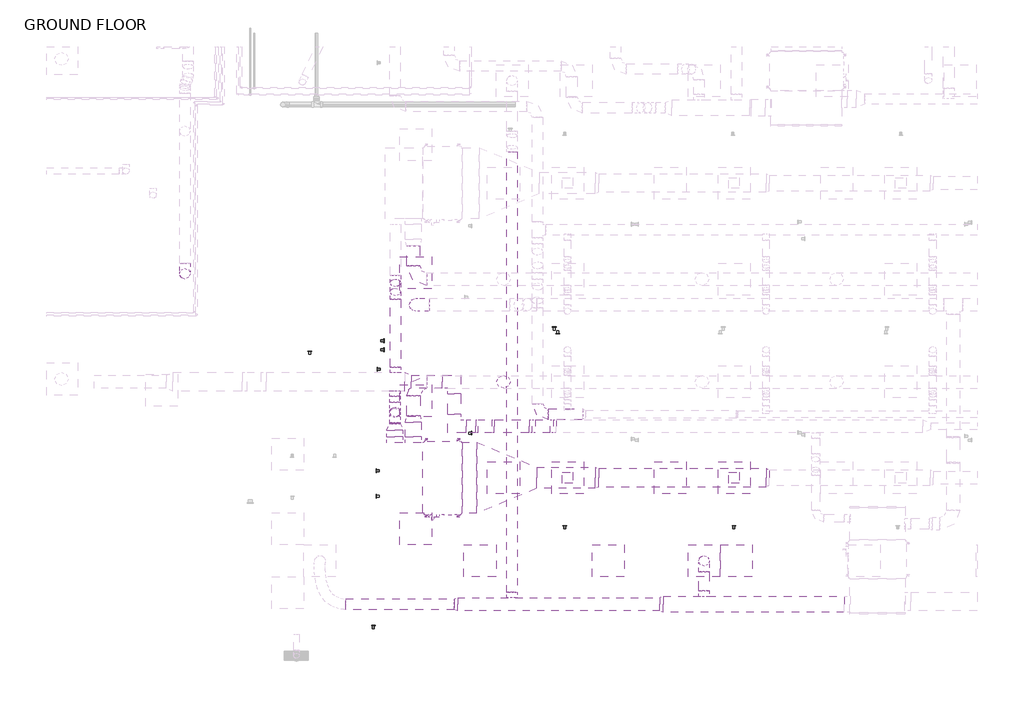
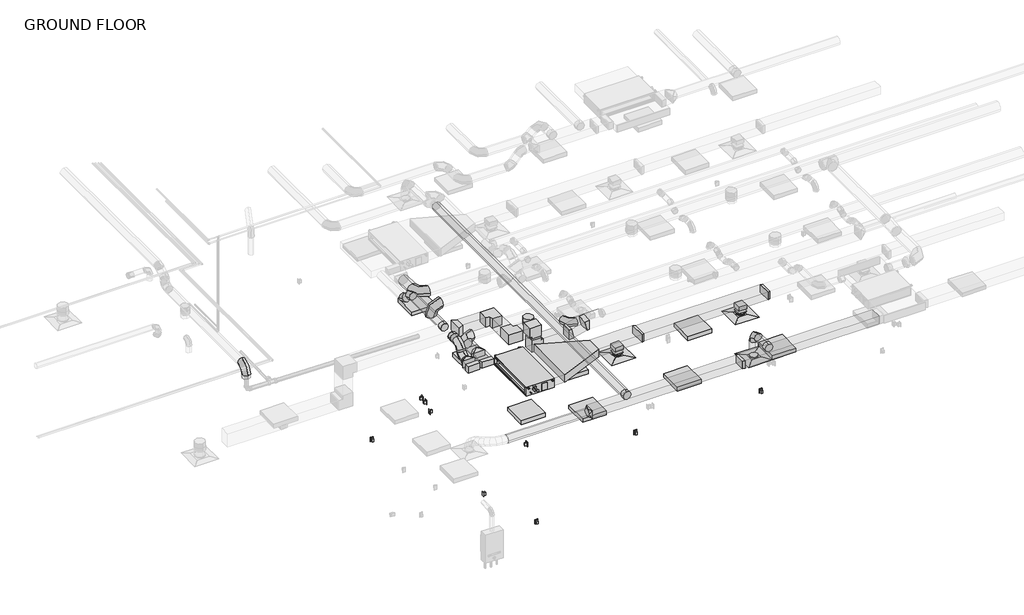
# One storey, part 2 of 21: 35 duct fittings, 29 duct segments, 8 light fixtures, 7 switching devices, 6 proxies, 3 air terminals.
"""IFC4 building model written with IfcOpenShell, lengths in millimetres."""

from ifc_helpers import new_model, si_unit, point, frame, frame_2d, origin, place, context, project, spatial, polyline, circle_curve, trimmed, segment, composite_curve, outline, extrude, transform, mapped, element, save
from components import air_terminal_e9020785, mechanical_equipment_d478180c, duplex_receptacle_countertop_10251bba, rectangular_elbow_mitered_transition_standard_c0ad29cc, rectangular_elbow_mitered_transition_standard_35919474, rectangular_elbow_radius_1_5_w_4707421c, rectangular_takeoff_standard_d07ea574, rectangular_takeoff_standard_fde45e03, rectangular_takeoff_standard_a8f316fd, rectangular_transition_angle_45_degree_1d311e81, rectangular_transition_angle_45_degree_791ae252, rectangular_transition_angle_45_degree_a1440fe9, rectangular_transition_angle_45_degree_05e1d5e5, rectangular_transition_angle_45_degree_612073dc, rectangular_to_round_transition_angle_45_degree_e9430680, rectangular_to_round_transition_angle_45_degree_5a025447, rectangular_to_round_transition_angle_45_degree_789dc1ad, rectangular_to_round_transition_angle_45_degree_93942259, round_elbow_1_d_a253342a, round_elbow_1_d_6fec3262, round_elbow_1_d_ab3aa7ba, round_elbow_1_d_e523f96f, round_takeoff_standard_161717b3, round_takeoff_standard_d3b0d0f9, round_takeoff_standard_1127d77f, troffer_corner_insert_2x2_3lamp_e67c7f8f

model = new_model("IFC4")

# Units and contexts
model_context = context("Model", 3, world=origin())
ifc_project = project(units=[si_unit("LENGTHUNIT", "METRE", prefix="MILLI")], contexts=[model_context])

# Site, building, storey
site = spatial("IfcSite", under=ifc_project)
building = spatial("IfcBuilding", under=site)
storey = spatial("IfcBuildingStorey", under=building, Name="GROUND FLOOR", Elevation=30480.0)

# Air terminals
placement = place(None, origin())
air_terminal_shape = air_terminal_e9020785(model_context)
element("IfcAirTerminal", 1, ObjectType="Supply Diffuser - Rectangular Face Round Neck - Hosted : 24\"x24\" Face 8\" Neck - Hosted", at=placement, inside=storey, context=model_context, shape_type="MappedRepresentation", body=[
    mapped(air_terminal_shape, transform((-3970.9704607, -4228.1054995, 33223.2), x_axis=(0.0, -1.0, 0.0), y_axis=(-1.0, 0.0, 0.0), z_axis=(0.0, 0.0, -1.0))),
])
element("IfcAirTerminal", 2, ObjectType="Supply Diffuser - Rectangular Face Round Neck - Hosted : 24\"x24\" Face 8\" Neck - Hosted", at=placement, inside=storey, context=model_context, shape_type="MappedRepresentation", body=[
    mapped(air_terminal_shape, transform((-799.1454607, -4228.1054995, 33223.2), x_axis=(0.0, -1.0, 0.0), y_axis=(-1.0, 0.0, 0.0), z_axis=(0.0, 0.0, -1.0))),
])
element("IfcAirTerminal", 3, ObjectType="Supply Diffuser - Rectangular Face Round Neck - Hosted : 24\"x24\" Face 8\" Neck - Hosted", at=placement, inside=storey, context=model_context, shape_type="MappedRepresentation", body=[
    mapped(air_terminal_shape, transform((-1370.6454607, -5809.2554995, 33223.2), x_axis=(0.0, -1.0, 0.0), y_axis=(-1.0, 0.0, 0.0), z_axis=(0.0, 0.0, -1.0))),
])

# Proxies
mechanical_equipment_shape = mechanical_equipment_d478180c(model_context)
element("IfcBuildingElementProxy", 4, Name="PEFY-P-NMAU-E_Medium_Static_Ducted : PEFY-P36NMAU-E", ObjectType="PEFY-P-NMAU-E_Medium_Static_Ducted : PEFY-P36NMAU-E", at=placement, inside=storey, context=model_context, shape_type="MappedRepresentation", body=[
    mapped(mechanical_equipment_shape, transform((-6407.5018914, -4238.1177424, 33458.15), x_axis=(0.0, -1.0, 0.0), y_axis=(1.0, 0.0, 0.0), z_axis=(0.0, 0.0, 1.0))),
])
duplex_receptacle_countertop_shape = duplex_receptacle_countertop_10251bba(model_context)
element("IfcBuildingElementProxy", 5, Name="Duplex Receptacle : Countertop", ObjectType="Duplex Receptacle : Countertop", at=placement, inside=storey, context=model_context, shape_type="MappedRepresentation", body=[
    mapped(duplex_receptacle_countertop_shape, transform((-7612.6954607, -4094.8803296, 31699.2), x_axis=(0.0, -1.0, 0.0), y_axis=(0.0, 0.0, 1.0), z_axis=(-1.0, 0.0, 0.0))),
])
element("IfcBuildingElementProxy", 6, Name="Duplex Receptacle : Standard", ObjectType="Duplex Receptacle : Standard", at=placement, inside=storey, context=model_context, shape_type="MappedRepresentation", body=[
    mapped(duplex_receptacle_countertop_shape, transform((-5799.7704607, -3377.6052402, 30937.2), x_axis=(0.0, 1.0, 0.0), y_axis=(0.0, 0.0, 1.0), z_axis=(1.0, 0.0, 0.0))),
])
element("IfcBuildingElementProxy", 7, Name="Duplex Receptacle : Standard", ObjectType="Duplex Receptacle : Standard", at=placement, inside=storey, context=model_context, shape_type="MappedRepresentation", body=[
    mapped(duplex_receptacle_countertop_shape, transform((-4158.8399036, -1484.9054995, 30937.2), x_axis=(1.0, 0.0, 0.0), y_axis=(0.0, 0.0, 1.0), z_axis=(0.0, -1.0, 0.0))),
])
element("IfcBuildingElementProxy", 8, Name="Duplex Receptacle : Standard", ObjectType="Duplex Receptacle : Standard", at=placement, inside=storey, context=model_context, shape_type="MappedRepresentation", body=[
    mapped(duplex_receptacle_countertop_shape, transform((-4224.9569269, -1361.0804995, 30937.2), x_axis=(-1.0, 0.0, 0.0), y_axis=(0.0, 0.0, 1.0), z_axis=(0.0, 1.0, 0.0))),
])
element("IfcBuildingElementProxy", 9, Name="Duplex Receptacle : Standard", ObjectType="Duplex Receptacle : Standard", at=placement, inside=storey, context=model_context, shape_type="MappedRepresentation", body=[
    mapped(duplex_receptacle_countertop_shape, transform((-7612.6954607, -4580.3290088, 30937.2), x_axis=(0.0, -1.0, 0.0), y_axis=(0.0, 0.0, 1.0), z_axis=(-1.0, 0.0, 0.0))),
])

# Duct fittings
rectangular_elbow_mitered_transition_standard_shape = rectangular_elbow_mitered_transition_standard_c0ad29cc(model_context)
element("IfcDuctFitting", 10, ObjectType="Rectangular Elbow - Mitered - Transition : Standard", at=placement, inside=storey, context=model_context, shape_type="MappedRepresentation", body=[
    mapped(rectangular_elbow_mitered_transition_standard_shape, transform((-6128.144811, -2399.3054995, 33909.0), x_axis=(0.0, 1.0, 0.0), y_axis=(-1.0, 0.0, 0.0), z_axis=(0.0, 0.0, 1.0))),
])
element("IfcDuctFitting", 11, ObjectType="Rectangular Elbow - Mitered - Transition : Standard", at=placement, inside=storey, context=model_context, shape_type="MappedRepresentation", body=[
    mapped(rectangular_elbow_mitered_transition_standard_shape, transform((-6128.144811, -3245.6216457, 33909.0), x_axis=(0.0, -1.0, 0.0), y_axis=(1.0, 0.0, 0.0), z_axis=(0.0, 0.0, 1.0))),
])
rectangular_elbow_mitered_transition_standard_2_shape = rectangular_elbow_mitered_transition_standard_35919474(model_context)
element("IfcDuctFitting", 12, ObjectType="Rectangular Elbow - Mitered - Transition : Standard", at=placement, inside=storey, context=model_context, shape_type="MappedRepresentation", body=[
    mapped(rectangular_elbow_mitered_transition_standard_2_shape, transform((-5543.944811, -3245.6216457, 33909.0), x_axis=(1.0, 0.0, 0.0), y_axis=(0.0, 0.0, -1.0), z_axis=(0.0, 1.0, 0.0))),
])
element("IfcDuctFitting", 13, ObjectType="Rectangular Elbow - Mitered - Transition : Standard", at=placement, inside=storey, context=model_context, shape_type="MappedRepresentation", body=[
    mapped(rectangular_elbow_mitered_transition_standard_2_shape, transform((-5543.944811, -3245.6216457, 33502.6), x_axis=(-1.0, 0.0, 0.0), y_axis=(0.0, 0.0, 1.0), z_axis=(0.0, 1.0, 0.0))),
])
rectangular_elbow_radius_1_5_w_shape = rectangular_elbow_radius_1_5_w_4707421c(model_context)
element("IfcDuctFitting", 14, ObjectType="Rectangular Elbow - Radius : 1.5 W", at=placement, inside=storey, context=model_context, shape_type="MappedRepresentation", body=[
    mapped(rectangular_elbow_radius_1_5_w_shape, transform((-4654.944811, -3245.6216457, 33502.6), x_axis=(1.0, 0.0, 0.0), y_axis=(0.0, 0.0, 1.0), z_axis=(0.0, -1.0, 0.0))),
])
element("IfcDuctFitting", 15, ObjectType="Rectangular Elbow - Radius : 1.5 W", at=placement, inside=storey, context=model_context, shape_type="MappedRepresentation", body=[
    mapped(rectangular_elbow_radius_1_5_w_shape, transform((-4228.8077618, -3245.6216457, 33602.867541), x_axis=(-1.0, 0.0, 0.0), y_axis=(0.0, 0.0, -1.0), z_axis=(0.0, -1.0, 0.0))),
])
rectangular_takeoff_standard_shape = rectangular_takeoff_standard_d07ea574(model_context)
element("IfcDuctFitting", 16, ObjectType="Rectangular Takeoff : Standard", at=placement, inside=storey, context=model_context, shape_type="MappedRepresentation", body=[
    mapped(rectangular_takeoff_standard_shape, transform((-799.1454607, -4228.1054995, 33502.6), x_axis=(0.0, 0.0, -1.0), y_axis=(1.0, 0.0, 0.0), z_axis=(0.0, -1.0, 0.0))),
])
element("IfcDuctFitting", 17, ObjectType="Rectangular Takeoff : Standard", at=placement, inside=storey, context=model_context, shape_type="MappedRepresentation", body=[
    mapped(rectangular_takeoff_standard_shape, transform((-3970.9704607, -4228.1054995, 33502.6), x_axis=(0.0, 0.0, -1.0), y_axis=(1.0, 0.0, 0.0), z_axis=(0.0, -1.0, 0.0))),
])
rectangular_takeoff_standard_2_shape = rectangular_takeoff_standard_fde45e03(model_context)
element("IfcDuctFitting", 18, ObjectType="Rectangular Takeoff : Standard", at=placement, inside=storey, context=model_context, shape_type="MappedRepresentation", body=[
    mapped(rectangular_takeoff_standard_2_shape, transform((-6905.278652, -3550.2429995, 33617.69375), x_axis=(0.0, 1.0, 0.0), y_axis=(-1.0, 0.0, 0.0), z_axis=(0.0, 0.0, 1.0))),
])
rectangular_takeoff_standard_3_shape = rectangular_takeoff_standard_a8f316fd(model_context)
element("IfcDuctFitting", 19, ObjectType="Rectangular Takeoff : Standard", at=placement, inside=storey, context=model_context, shape_type="MappedRepresentation", body=[
    mapped(rectangular_takeoff_standard_3_shape, transform((-7257.09369, -3550.2429995, 33617.69375), x_axis=(0.0, 1.0, 0.0), y_axis=(1.0, 0.0, 0.0), z_axis=(0.0, 0.0, -1.0))),
])
rectangular_transition_angle_45_degree_shape = rectangular_transition_angle_45_degree_1d311e81(model_context)
element("IfcDuctFitting", 20, ObjectType="Rectangular Transition - Angle : 45 Degree", at=placement, inside=storey, context=model_context, shape_type="MappedRepresentation", body=[
    mapped(rectangular_transition_angle_45_degree_shape, transform((-2152.8792966, -6635.2850038, 33877.25), x_axis=(-1.0, 0.0, 0.0), y_axis=(0.0, -1.0, 0.0), z_axis=(0.0, 0.0, 1.0))),
])
rectangular_transition_angle_45_degree_2_shape = rectangular_transition_angle_45_degree_791ae252(model_context)
element("IfcDuctFitting", 21, ObjectType="Rectangular Transition - Angle : 45 Degree", at=placement, inside=storey, context=model_context, shape_type="MappedRepresentation", body=[
    mapped(rectangular_transition_angle_45_degree_2_shape, transform((-3441.5200089, -4228.1054995, 33604.2), x_axis=(1.0, 0.0, 0.0), y_axis=(0.0, 1.0, 0.0), z_axis=(0.0, 0.0, 1.0))),
])
rectangular_transition_angle_45_degree_3_shape = rectangular_transition_angle_45_degree_a1440fe9(model_context)
element("IfcDuctFitting", 22, ObjectType="Rectangular Transition - Angle : 45 Degree", at=placement, inside=storey, context=model_context, shape_type="MappedRepresentation", body=[
    mapped(rectangular_transition_angle_45_degree_3_shape, transform((-189.5454607, -4228.1054995, 33604.2), x_axis=(1.0, 0.0, 0.0), y_axis=(0.0, 1.0, 0.0), z_axis=(0.0, 0.0, 1.0))),
])
rectangular_transition_angle_45_degree_4_shape = rectangular_transition_angle_45_degree_05e1d5e5(model_context)
element("IfcDuctFitting", 23, ObjectType="Rectangular Transition - Angle : 45 Degree", at=placement, inside=storey, context=model_context, shape_type="MappedRepresentation", body=[
    mapped(rectangular_transition_angle_45_degree_4_shape, transform((-4556.1833638, -4228.1054995, 33604.2), x_axis=(-1.0, 0.0, 0.0), y_axis=(0.0, -1.0, 0.0), z_axis=(0.0, 0.0, 1.0))),
])
rectangular_transition_angle_45_degree_5_shape = rectangular_transition_angle_45_degree_612073dc(model_context)
element("IfcDuctFitting", 24, ObjectType="Rectangular Transition - Angle : 45 Degree", at=placement, inside=storey, context=model_context, shape_type="MappedRepresentation", body=[
    mapped(rectangular_transition_angle_45_degree_5_shape, transform((-7067.944811, -2399.3054995, 33909.0), x_axis=(1.0, 0.0, 0.0), y_axis=(0.0, 1.0, 0.0), z_axis=(0.0, 0.0, 1.0))),
])
rectangular_to_round_transition_angle_45_degree_shape = rectangular_to_round_transition_angle_45_degree_e9430680(model_context)
element("IfcDuctFitting", 25, ObjectType="Rectangular to Round Transition - Angle : 45 Degree", at=placement, inside=storey, context=model_context, shape_type="MappedRepresentation", body=[
    mapped(rectangular_to_round_transition_angle_45_degree_shape, transform((-6064.4792966, -6635.2850038, 33877.25), x_axis=(-1.0, 0.0, 0.0), y_axis=(0.0, -1.0, 0.0), z_axis=(0.0, 0.0, 1.0))),
])
rectangular_to_round_transition_angle_45_degree_2_shape = rectangular_to_round_transition_angle_45_degree_5a025447(model_context)
element("IfcDuctFitting", 26, ObjectType="Rectangular to Round Transition - Angle : 45 Degree", at=placement, inside=storey, context=model_context, shape_type="MappedRepresentation", body=[
    mapped(rectangular_to_round_transition_angle_45_degree_2_shape, transform((-799.1454607, -4228.1054995, 33327.975), x_axis=(0.0, 0.0, -1.0), y_axis=(1.0, 0.0, 0.0), z_axis=(0.0, -1.0, 0.0))),
])
element("IfcDuctFitting", 27, ObjectType="Rectangular to Round Transition - Angle : 45 Degree", at=placement, inside=storey, context=model_context, shape_type="MappedRepresentation", body=[
    mapped(rectangular_to_round_transition_angle_45_degree_2_shape, transform((-3970.9704607, -4228.1054995, 33327.975), x_axis=(0.0, 0.0, -1.0), y_axis=(1.0, 0.0, 0.0), z_axis=(0.0, -1.0, 0.0))),
])
rectangular_to_round_transition_angle_45_degree_3_shape = rectangular_to_round_transition_angle_45_degree_789dc1ad(model_context)
element("IfcDuctFitting", 28, ObjectType="Rectangular to Round Transition - Angle : 45 Degree", at=placement, inside=storey, context=model_context, shape_type="MappedRepresentation", body=[
    mapped(rectangular_to_round_transition_angle_45_degree_3_shape, transform((-6905.278652, -3169.2429995, 33617.69375), x_axis=(0.0, 1.0, 0.0), y_axis=(-1.0, 0.0, 0.0), z_axis=(0.0, 0.0, 1.0))),
])
rectangular_to_round_transition_angle_45_degree_4_shape = rectangular_to_round_transition_angle_45_degree_93942259(model_context)
element("IfcDuctFitting", 29, ObjectType="Rectangular to Round Transition - Angle : 45 Degree", at=placement, inside=storey, context=model_context, shape_type="MappedRepresentation", body=[
    mapped(rectangular_to_round_transition_angle_45_degree_4_shape, transform((-7257.09369, -3321.6429995, 33617.69375), x_axis=(0.0, 1.0, 0.0), y_axis=(-1.0, 0.0, 0.0), z_axis=(0.0, 0.0, 1.0))),
])
round_elbow_1_d_shape = round_elbow_1_d_a253342a(model_context)
element("IfcDuctFitting", 30, ObjectType="Round Elbow : 1 D", at=placement, inside=storey, context=model_context, shape_type="MappedRepresentation", body=[
    mapped(round_elbow_1_d_shape, transform((-11256.8513201, -341.9054995, 33121.6), x_axis=(0.0, -1.0, 0.0), y_axis=(0.0, 0.0, -1.0), z_axis=(1.0, 0.0, 0.0))),
])
element("IfcDuctFitting", 31, ObjectType="Round Elbow : 1 D", at=placement, inside=storey, context=model_context, shape_type="MappedRepresentation", body=[
    mapped(round_elbow_1_d_shape, transform((-4541.976464, -3019.0145579, 33528.0), x_axis=(0.0, -1.0, 0.0), y_axis=(1.0, 0.0, 0.0), z_axis=(0.0, 0.0, 1.0))),
])
element("IfcDuctFitting", 32, ObjectType="Round Elbow : 1 D", at=placement, inside=storey, context=model_context, shape_type="MappedRepresentation", body=[
    mapped(round_elbow_1_d_shape, transform((-1370.6454607, -5809.2554995, 33877.25), x_axis=(0.0, 0.0, 1.0), y_axis=(0.0, -1.0, 0.0), z_axis=(1.0, 0.0, 0.0))),
])
round_elbow_1_d_2_shape = round_elbow_1_d_6fec3262(model_context)
element("IfcDuctFitting", 33, ObjectType="Round Elbow : 1 D", at=placement, inside=storey, context=model_context, shape_type="MappedRepresentation", body=[
    mapped(round_elbow_1_d_2_shape, transform((-6857.0454607, -932.4554995, 33578.8), x_axis=(0.0, 0.0, 1.0), y_axis=(1.0, 0.0, 0.0), z_axis=(0.0, 1.0, 0.0))),
])
element("IfcDuctFitting", 34, ObjectType="Round Elbow : 1 D", at=placement, inside=storey, context=model_context, shape_type="MappedRepresentation", body=[
    mapped(round_elbow_1_d_2_shape, transform((-6905.278652, -2407.6759121, 33617.69375), x_axis=(-1.0, 0.0, 0.0), y_axis=(0.0, -1.0, 0.0), z_axis=(0.0, 0.0, 1.0))),
])
element("IfcDuctFitting", 35, ObjectType="Round Elbow : 1 D", at=placement, inside=storey, context=model_context, shape_type="MappedRepresentation", body=[
    mapped(round_elbow_1_d_2_shape, transform((-6907.4143044, -446.6804995, 33617.69375), x_axis=(0.0, -1.0, 0.0), y_axis=(1.0, 0.0, 0.0), z_axis=(0.0, 0.0, 1.0))),
])
round_elbow_1_d_3_shape = round_elbow_1_d_ab3aa7ba(model_context)
element("IfcDuctFitting", 36, ObjectType="Round Elbow : 1 D", at=placement, inside=storey, context=model_context, shape_type="MappedRepresentation", body=[
    mapped(round_elbow_1_d_3_shape, transform((-7247.6134283, -456.5972917, 33617.69375), x_axis=(0.0, -1.0, 0.0), y_axis=(0.0, 0.0, 1.0), z_axis=(-1.0, 0.0, 0.0))),
])
element("IfcDuctFitting", 37, ObjectType="Round Elbow : 1 D", at=placement, inside=storey, context=model_context, shape_type="MappedRepresentation", body=[
    mapped(round_elbow_1_d_3_shape, transform((-7247.6134283, -747.9035417, 33909.0), x_axis=(0.0, -0.7071067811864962, 0.7071067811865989), y_axis=(0.0, -0.7071067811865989, -0.7071067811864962), z_axis=(1.0, 0.0, 0.0))),
])
round_elbow_1_d_4_shape = round_elbow_1_d_e523f96f(model_context)
element("IfcDuctFitting", 38, ObjectType="Round Elbow : 1 D", at=placement, inside=storey, context=model_context, shape_type="MappedRepresentation", body=[
    mapped(round_elbow_1_d_4_shape, transform((-7257.09369, -3046.6009505, 33617.69375), x_axis=(0.0, 1.0, 0.0), y_axis=(0.0, 0.0, 1.0), z_axis=(1.0, 0.0, 0.0))),
])
element("IfcDuctFitting", 39, ObjectType="Round Elbow : 1 D", at=placement, inside=storey, context=model_context, shape_type="MappedRepresentation", body=[
    mapped(round_elbow_1_d_4_shape, transform((-7257.09369, -2922.9487836, 33909.0), x_axis=(0.0, 0.3907311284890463, 0.920504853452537), y_axis=(0.0, 0.920504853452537, -0.3907311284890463), z_axis=(-1.0, 0.0, 0.0))),
])
round_takeoff_standard_shape = round_takeoff_standard_161717b3(model_context)
element("IfcDuctFitting", 40, ObjectType="Round Takeoff : Standard", at=placement, inside=storey, context=model_context, shape_type="MappedRepresentation", body=[
    mapped(round_takeoff_standard_shape, transform((-5190.1704607, -2399.3054995, 33490.69375), x_axis=(0.0, 0.0, -1.0), y_axis=(-1.0, 0.0, 0.0), z_axis=(0.0, 1.0, 0.0))),
])
round_takeoff_standard_2_shape = round_takeoff_standard_d3b0d0f9(model_context)
element("IfcDuctFitting", 41, ObjectType="Round Takeoff : Standard", at=placement, inside=storey, context=model_context, shape_type="MappedRepresentation", body=[
    mapped(round_takeoff_standard_2_shape, transform((-7247.6134283, -2221.5054995, 33909.0), x_axis=(0.0, 1.0, 0.0), y_axis=(1.0, 0.0, 0.0), z_axis=(0.0, 0.0, -1.0))),
])
element("IfcDuctFitting", 42, ObjectType="Round Takeoff : Standard", at=placement, inside=storey, context=model_context, shape_type="MappedRepresentation", body=[
    mapped(round_takeoff_standard_2_shape, transform((-1370.6454607, -6482.8850038, 33877.25), x_axis=(0.0, 1.0, 0.0), y_axis=(1.0, 0.0, 0.0), z_axis=(0.0, 0.0, -1.0))),
])
element("IfcDuctFitting", 43, ObjectType="Round Takeoff : Standard", at=placement, inside=storey, context=model_context, shape_type="MappedRepresentation", body=[
    mapped(round_takeoff_standard_2_shape, transform((-5028.2454607, -6508.2850038, 33877.25), x_axis=(0.0, 1.0, 0.0), y_axis=(1.0, 0.0, 0.0), z_axis=(0.0, 0.0, -1.0))),
])
round_takeoff_standard_3_shape = round_takeoff_standard_1127d77f(model_context)
element("IfcDuctFitting", 44, ObjectType="Round Takeoff : Standard", at=placement, inside=storey, context=model_context, shape_type="MappedRepresentation", body=[
    mapped(round_takeoff_standard_3_shape, transform((-7257.09369, -2577.1054995, 33909.0), x_axis=(0.0, -1.0, 0.0), y_axis=(-1.0, 0.0, 0.0), z_axis=(0.0, 0.0, -1.0))),
])

# Duct segments
element("IfcDuctSegment", 45, ObjectType="Mitered Elbows / Taps", at=placement, inside=storey, context=model_context, shape_type="SweptSolid", body=[
    extrude(outline(polyline([(1301.5207034, -6482.8850038), (1301.5207034, -6787.6850038), (-2152.8792966, -6787.6850038), (-2152.8792966, -6482.8850038), (1301.5207034, -6482.8850038)])), frame((0.0, 0.0, 33775.65), z_axis=(0.0, 0.0, 1.0), x_axis=(1.0, 0.0, 0.0)), (0.0, 0.0, 1.0), 203.2),
])
element("IfcDuctSegment", 46, ObjectType="Mitered Elbows / Taps", at=placement, inside=storey, context=model_context, shape_type="SweptSolid", body=[
    extrude(outline(polyline([(-2214.200321, -6508.2850038), (-2214.200321, -6762.2850038), (-6064.4792966, -6762.2850038), (-6064.4792966, -6508.2850038), (-2214.200321, -6508.2850038)])), frame((0.0, 0.0, 33775.65), z_axis=(0.0, 0.0, 1.0), x_axis=(1.0, 0.0, 0.0)), (0.0, 0.0, 1.0), 203.2),
])
element("IfcDuctSegment", 47, ObjectType="Mitered Elbows / Taps", at=placement, inside=storey, context=model_context, shape_type="SweptSolid", body=[
    extrude(outline(polyline([(-3380.1989844, -4405.9054995), (-3380.1989844, -4050.3054995), (-189.5454607, -4050.3054995), (-189.5454607, -4405.9054995), (-3380.1989844, -4405.9054995)])), frame((0.0, 0.0, 33502.6), z_axis=(0.0, 0.0, 1.0), x_axis=(1.0, 0.0, 0.0)), (0.0, 0.0, 1.0), 203.2),
])
element("IfcDuctSegment", 48, ObjectType="Mitered Elbows / Taps", at=placement, inside=storey, context=model_context, shape_type="SweptSolid", body=[
    extrude(outline(polyline([(-5978.8768914, -4905.9679995), (-5978.8768914, -3550.2429995), (-5702.1200089, -3550.2429995), (-5702.1200089, -4905.9679995), (-5978.8768914, -4905.9679995)])), frame((0.0, 0.0, 33501.0125), z_axis=(0.0, 0.0, 1.0), x_axis=(1.0, 0.0, 0.0)), (0.0, 0.0, 1.0), 206.375),
])
element("IfcDuctSegment", 49, ObjectType="Mitered Elbows / Taps", at=placement, inside=storey, context=model_context, shape_type="SweptSolid", body=[
    extrude(outline(polyline([(-3441.5200089, -4024.9054995), (-3441.5200089, -4431.3054995), (-4556.1833638, -4431.3054995), (-4556.1833638, -4024.9054995), (-3441.5200089, -4024.9054995)])), frame((0.0, 0.0, 33502.6), z_axis=(0.0, 0.0, 1.0), x_axis=(1.0, 0.0, 0.0)), (0.0, 0.0, 1.0), 203.2),
])
element("IfcDuctSegment", 50, ObjectType="Mitered Elbows / Taps", at=placement, inside=storey, context=model_context, shape_type="SweptSolid", body=[
    extrude(outline(polyline([(-900.7454607, -4126.5054995), (-697.5454607, -4126.5054995), (-697.5454607, -4329.7054995), (-900.7454607, -4329.7054995), (-900.7454607, -4126.5054995)])), frame((0.0, 0.0, 33327.975), z_axis=(0.0, 0.0, 1.0), x_axis=(1.0, 0.0, 0.0)), (0.0, 0.0, 1.0), 73.025),
])
element("IfcDuctSegment", 51, ObjectType="Mitered Elbows / Taps", at=placement, inside=storey, context=model_context, shape_type="SweptSolid", body=[
    extrude(outline(polyline([(-4072.5704607, -4126.5054995), (-3869.3704607, -4126.5054995), (-3869.3704607, -4329.7054995), (-4072.5704607, -4329.7054995), (-4072.5704607, -4126.5054995)])), frame((0.0, 0.0, 33327.975), z_axis=(0.0, 0.0, 1.0), x_axis=(1.0, 0.0, 0.0)), (0.0, 0.0, 1.0), 73.025),
])
element("IfcDuctSegment", 52, ObjectType="Mitered Elbows / Taps", at=placement, inside=storey, context=model_context, shape_type="SweptSolid", body=[
    extrude(outline(polyline([(-6752.878652, -3448.6429995), (-7057.678652, -3448.6429995), (-7057.678652, -3169.2429995), (-6752.878652, -3169.2429995), (-6752.878652, -3448.6429995)])), frame((0.0, 0.0, 33541.49375), z_axis=(0.0, 0.0, 1.0), x_axis=(1.0, 0.0, 0.0)), (0.0, 0.0, 1.0), 152.4),
])
element("IfcDuctSegment", 53, ObjectType="Mitered Elbows / Taps", at=placement, inside=storey, context=model_context, shape_type="SweptSolid", body=[
    extrude(outline(polyline([(-6945.302762, -2526.3054995), (-6945.302762, -2272.3054995), (-6356.744811, -2272.3054995), (-6356.744811, -2526.3054995), (-6945.302762, -2526.3054995)])), frame((0.0, 0.0, 33782.0), z_axis=(0.0, 0.0, 1.0), x_axis=(1.0, 0.0, 0.0)), (0.0, 0.0, 1.0), 254.0),
])
element("IfcDuctSegment", 54, ObjectType="Mitered Elbows / Taps", at=placement, inside=storey, context=model_context, shape_type="SweptSolid", body=[
    extrude(outline(polyline([(-6255.144811, -2627.9054995), (-6001.144811, -2627.9054995), (-6001.144811, -3017.0216457), (-6255.144811, -3017.0216457), (-6255.144811, -2627.9054995)])), frame((0.0, 0.0, 33782.0), z_axis=(0.0, 0.0, 1.0), x_axis=(1.0, 0.0, 0.0)), (0.0, 0.0, 1.0), 254.0),
])
element("IfcDuctSegment", 55, ObjectType="Mitered Elbows / Taps", at=placement, inside=storey, context=model_context, shape_type="SweptSolid", body=[
    extrude(outline(polyline([(-7104.69369, -3448.6429995), (-7409.49369, -3448.6429995), (-7409.49369, -3321.6429995), (-7104.69369, -3321.6429995), (-7104.69369, -3448.6429995)])), frame((0.0, 0.0, 33528.79375), z_axis=(0.0, 0.0, 1.0), x_axis=(1.0, 0.0, 0.0)), (0.0, 0.0, 1.0), 177.8),
])
element("IfcDuctSegment", 56, ObjectType="Mitered Elbows / Taps", at=placement, inside=storey, context=model_context, shape_type="SweptSolid", body=[
    extrude(outline(polyline([(-5899.544811, -3372.6216457), (-5899.544811, -3118.6216457), (-5721.744811, -3118.6216457), (-5721.744811, -3372.6216457), (-5899.544811, -3372.6216457)])), frame((0.0, 0.0, 33782.0), z_axis=(0.0, 0.0, 1.0), x_axis=(1.0, 0.0, 0.0)), (0.0, 0.0, 1.0), 254.0),
])
element("IfcDuctSegment", 57, ObjectType="Mitered Elbows / Taps", at=placement, inside=storey, context=model_context, shape_type="SweptSolid", body=[
    extrude(outline(polyline([(-5416.944811, -3372.6216457), (-5670.944811, -3372.6216457), (-5670.944811, -3118.6216457), (-5416.944811, -3118.6216457), (-5416.944811, -3372.6216457)])), frame((0.0, 0.0, 33680.4), z_axis=(0.0, 0.0, 1.0), x_axis=(1.0, 0.0, 0.0)), (0.0, 0.0, 1.0), 50.8),
])
element("IfcDuctSegment", 58, ObjectType="Radius Elbows / Taps", at=placement, inside=storey, context=model_context, shape_type="SweptSolid", body=[
    extrude(outline(polyline([(-5366.144811, -3372.6216457), (-5366.144811, -3118.6216457), (-4699.164547, -3118.6216457), (-4699.164547, -3372.6216457), (-5366.144811, -3372.6216457)])), frame((0.0, 0.0, 33375.6), z_axis=(0.0, 0.0, 1.0), x_axis=(1.0, 0.0, 0.0)), (0.0, 0.0, 1.0), 254.0),
])
element("IfcDuctSegment", 59, ObjectType="Radius Elbows / Taps", at=placement, inside=storey, context=model_context, shape_type="SweptSolid", body=[
    extrude(outline(polyline([(0.0, -254.0), (0.0, 0.0), (349.3348585, 0.0), (349.3348585, -254.0), (0.0, -254.0)])), frame((-4582.8125654, -3118.6216457, 33389.1040785), z_axis=(-0.22903933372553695, 0.0, 0.9734171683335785), x_axis=(0.9734171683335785, 0.0, 0.22903933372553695)), (0.0, 0.0, 1.0), 254.0),
])
element("IfcDuctSegment", 60, ObjectType="Taps / Short Radius", at=placement, inside=storey, context=model_context, shape_type="SweptSolid", body=[
    extrude(outline(composite_curve([segment(trimmed(circle_curve(frame_2d((-6635.2850038, 33877.25)), 101.6), [point((-6533.6850038, 33877.25))], [point((-6635.2850038, 33775.65))], False, "CARTESIAN"), True, "CONTINUOUS"), segment(trimmed(circle_curve(frame_2d((-6635.2850038, 33877.25)), 101.6), [point((-6635.2850038, 33775.65))], [point((-6736.8850038, 33877.25))], False, "CARTESIAN"), True, "CONTINUOUS"), segment(trimmed(circle_curve(frame_2d((-6635.2850038, 33877.25)), 101.6), [point((-6736.8850038, 33877.25))], [point((-6635.2850038, 33978.85))], False, "CARTESIAN"), True, "CONTINUOUS"), segment(trimmed(circle_curve(frame_2d((-6635.2850038, 33877.25)), 101.6), [point((-6635.2850038, 33978.85))], [point((-6533.6850038, 33877.25))], False, "CARTESIAN"), True, "CONTINUOUS")], self_intersect=False)), frame((-8198.0792966, 0.0, 0.0), z_axis=(1.0, 0.0, 0.0), x_axis=(0.0, 1.0, 0.0)), (0.0, 0.0, 1.0), 2072.2789755),
])
element("IfcDuctSegment", 61, ObjectType="Taps / Short Radius", at=placement, inside=storey, context=model_context, shape_type="SweptSolid", body=[
    extrude(outline(composite_curve([segment(trimmed(circle_curve(frame_2d((-11256.8513201, -341.9054995)), 101.6), [point((-11155.2513201, -341.9054995))], [point((-11256.8513201, -443.5054995))], False, "CARTESIAN"), True, "CONTINUOUS"), segment(trimmed(circle_curve(frame_2d((-11256.8513201, -341.9054995)), 101.6), [point((-11256.8513201, -443.5054995))], [point((-11358.4513201, -341.9054995))], False, "CARTESIAN"), True, "CONTINUOUS"), segment(trimmed(circle_curve(frame_2d((-11256.8513201, -341.9054995)), 101.6), [point((-11358.4513201, -341.9054995))], [point((-11256.8513201, -240.3054995))], False, "CARTESIAN"), True, "CONTINUOUS"), segment(trimmed(circle_curve(frame_2d((-11256.8513201, -341.9054995)), 101.6), [point((-11256.8513201, -240.3054995))], [point((-11155.2513201, -341.9054995))], False, "CARTESIAN"), True, "CONTINUOUS")], self_intersect=False)), frame((0.0, 0.0, 32816.8), z_axis=(0.0, 0.0, 1.0), x_axis=(1.0, 0.0, 0.0)), (0.0, 0.0, 1.0), 101.6),
])
element("IfcDuctSegment", 62, ObjectType="Taps / Short Radius", at=placement, inside=storey, context=model_context, shape_type="SweptSolid", body=[
    extrude(outline(composite_curve([segment(trimmed(circle_curve(frame_2d((33617.69375, -6905.278652)), 127.0), [point((33617.69375, -6778.278652))], [point((33744.69375, -6905.278652))], False, "CARTESIAN"), True, "CONTINUOUS"), segment(trimmed(circle_curve(frame_2d((33617.69375, -6905.278652)), 127.0), [point((33744.69375, -6905.278652))], [point((33617.69375, -7032.278652))], False, "CARTESIAN"), True, "CONTINUOUS"), segment(trimmed(circle_curve(frame_2d((33617.69375, -6905.278652)), 127.0), [point((33617.69375, -7032.278652))], [point((33490.69375, -6905.278652))], False, "CARTESIAN"), True, "CONTINUOUS"), segment(trimmed(circle_curve(frame_2d((33617.69375, -6905.278652)), 127.0), [point((33490.69375, -6905.278652))], [point((33617.69375, -6778.278652))], False, "CARTESIAN"), True, "CONTINUOUS")], self_intersect=False)), frame((0.0, -3046.6009505, 0.0), z_axis=(0.0, 1.0, 0.0), x_axis=(0.0, 0.0, 1.0)), (0.0, 0.0, 1.0), 384.9250384),
])
element("IfcDuctSegment", 63, ObjectType="Taps / Short Radius", at=placement, inside=storey, context=model_context, shape_type="SweptSolid", body=[
    extrude(outline(composite_curve([segment(trimmed(circle_curve(frame_2d((-5190.1704607, -2399.3054995)), 127.0), [point((-5317.1704607, -2399.3054995))], [point((-5190.1704607, -2272.3054995))], False, "CARTESIAN"), True, "CONTINUOUS"), segment(trimmed(circle_curve(frame_2d((-5190.1704607, -2399.3054995)), 127.0), [point((-5190.1704607, -2272.3054995))], [point((-5063.1704607, -2399.3054995))], False, "CARTESIAN"), True, "CONTINUOUS"), segment(trimmed(circle_curve(frame_2d((-5190.1704607, -2399.3054995)), 127.0), [point((-5063.1704607, -2399.3054995))], [point((-5190.1704607, -2526.3054995))], False, "CARTESIAN"), True, "CONTINUOUS"), segment(trimmed(circle_curve(frame_2d((-5190.1704607, -2399.3054995)), 127.0), [point((-5190.1704607, -2526.3054995))], [point((-5317.1704607, -2399.3054995))], False, "CARTESIAN"), True, "CONTINUOUS")], self_intersect=False)), frame((0.0, 0.0, 33324.8), z_axis=(0.0, 0.0, 1.0), x_axis=(1.0, 0.0, 0.0)), (0.0, 0.0, 1.0), 64.29375),
])
element("IfcDuctSegment", 64, ObjectType="Taps / Short Radius", at=placement, inside=storey, context=model_context, shape_type="SweptSolid", body=[
    extrude(outline(composite_curve([segment(trimmed(circle_curve(frame_2d((33617.69375, -6907.4143044)), 127.0), [point((33617.69375, -7034.4143044))], [point((33490.69375, -6907.4143044))], False, "CARTESIAN"), True, "CONTINUOUS"), segment(trimmed(circle_curve(frame_2d((33617.69375, -6907.4143044)), 127.0), [point((33490.69375, -6907.4143044))], [point((33617.69375, -6780.4143044))], False, "CARTESIAN"), True, "CONTINUOUS"), segment(trimmed(circle_curve(frame_2d((33617.69375, -6907.4143044)), 127.0), [point((33617.69375, -6780.4143044))], [point((33744.69375, -6907.4143044))], False, "CARTESIAN"), True, "CONTINUOUS"), segment(trimmed(circle_curve(frame_2d((33617.69375, -6907.4143044)), 127.0), [point((33744.69375, -6907.4143044))], [point((33617.69375, -7034.4143044))], False, "CARTESIAN"), True, "CONTINUOUS")], self_intersect=False)), frame((0.0, -192.6804995, 0.0), z_axis=(0.0, 1.0, 0.0), x_axis=(0.0, 0.0, 1.0)), (0.0, 0.0, 1.0), 385.357951),
])
element("IfcDuctSegment", 65, ObjectType="Taps / Short Radius", at=placement, inside=storey, context=model_context, shape_type="SweptSolid", body=[
    extrude(outline(composite_curve([segment(trimmed(circle_curve(frame_2d((0.0, 101.6)), 101.6), [point((-101.6, 101.6))], [point((0.0, 203.2))], False, "CARTESIAN"), True, "CONTINUOUS"), segment(trimmed(circle_curve(frame_2d((0.0, 101.6)), 101.6), [point((0.0, 203.2))], [point((101.6, 101.6))], False, "CARTESIAN"), True, "CONTINUOUS"), segment(trimmed(circle_curve(frame_2d((0.0, 101.6)), 101.6), [point((101.6, 101.6))], [point((0.0, 0.0))], False, "CARTESIAN"), True, "CONTINUOUS"), segment(trimmed(circle_curve(frame_2d((0.0, 101.6)), 101.6), [point((0.0, 0.0))], [point((-101.6, 101.6))], False, "CARTESIAN"), True, "CONTINUOUS")], self_intersect=False)), frame((-7247.6134283, -587.9552428, 33605.3676031), z_axis=(0.0, -0.7071067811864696, 0.7071067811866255), x_axis=(1.0, 0.0, 0.0)), (0.0, 0.0, 1.0), 243.6328578),
])
element("IfcDuctSegment", 66, ObjectType="Taps / Short Radius", at=placement, inside=storey, context=model_context, shape_type="SweptSolid", body=[
    extrude(outline(composite_curve([segment(trimmed(circle_curve(frame_2d((33909.0, -7247.6134283)), 101.6), [point((33909.0, -7146.0134283))], [point((34010.6, -7247.6134283))], False, "CARTESIAN"), True, "CONTINUOUS"), segment(trimmed(circle_curve(frame_2d((33909.0, -7247.6134283)), 101.6), [point((34010.6, -7247.6134283))], [point((33909.0, -7349.2134283))], False, "CARTESIAN"), True, "CONTINUOUS"), segment(trimmed(circle_curve(frame_2d((33909.0, -7247.6134283)), 101.6), [point((33909.0, -7349.2134283))], [point((33807.4, -7247.6134283))], False, "CARTESIAN"), True, "CONTINUOUS"), segment(trimmed(circle_curve(frame_2d((33909.0, -7247.6134283)), 101.6), [point((33807.4, -7247.6134283))], [point((33909.0, -7146.0134283))], False, "CARTESIAN"), True, "CONTINUOUS")], self_intersect=False)), frame((0.0, -2119.9054995, 0.0), z_axis=(0.0, 1.0, 0.0), x_axis=(0.0, 0.0, 1.0)), (0.0, 0.0, 1.0), 1287.8337619),
])
element("IfcDuctSegment", 67, ObjectType="Taps / Short Radius", at=placement, inside=storey, context=model_context, shape_type="SweptSolid", body=[
    extrude(outline(composite_curve([segment(trimmed(circle_curve(frame_2d((33617.69375, -7257.09369)), 101.6), [point((33617.69375, -7155.49369))], [point((33719.29375, -7257.09369))], False, "CARTESIAN"), True, "CONTINUOUS"), segment(trimmed(circle_curve(frame_2d((33617.69375, -7257.09369)), 101.6), [point((33719.29375, -7257.09369))], [point((33617.69375, -7358.69369))], False, "CARTESIAN"), True, "CONTINUOUS"), segment(trimmed(circle_curve(frame_2d((33617.69375, -7257.09369)), 101.6), [point((33617.69375, -7358.69369))], [point((33516.09375, -7257.09369))], False, "CARTESIAN"), True, "CONTINUOUS"), segment(trimmed(circle_curve(frame_2d((33617.69375, -7257.09369)), 101.6), [point((33516.09375, -7257.09369))], [point((33617.69375, -7155.49369))], False, "CARTESIAN"), True, "CONTINUOUS")], self_intersect=False)), frame((0.0, -3199.0009505, 0.0), z_axis=(0.0, 1.0, 0.0), x_axis=(0.0, 0.0, 1.0)), (0.0, 0.0, 1.0), 17.904854),
])
element("IfcDuctSegment", 68, ObjectType="Taps / Short Radius", at=placement, inside=storey, context=model_context, shape_type="SweptSolid", body=[
    extrude(outline(composite_curve([segment(trimmed(circle_curve(frame_2d((0.0, 101.6)), 101.6), [point((101.6, 101.6))], [point((0.0, 0.0))], False, "CARTESIAN"), True, "CONTINUOUS"), segment(trimmed(circle_curve(frame_2d((0.0, 101.6)), 101.6), [point((0.0, 0.0))], [point((-101.6, 101.6))], False, "CARTESIAN"), True, "CONTINUOUS"), segment(trimmed(circle_curve(frame_2d((0.0, 101.6)), 101.6), [point((-101.6, 101.6))], [point((0.0, 203.2))], False, "CARTESIAN"), True, "CONTINUOUS"), segment(trimmed(circle_curve(frame_2d((0.0, 101.6)), 101.6), [point((0.0, 203.2))], [point((101.6, 101.6))], False, "CARTESIAN"), True, "CONTINUOUS")], self_intersect=False)), frame((-7257.09369, -3087.5728034, 33781.1954673), z_axis=(0.0, 0.3907311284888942, 0.9205048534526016), x_axis=(1.0, 0.0, 0.0)), (0.0, 0.0, 1.0), 47.4732756),
])
element("IfcDuctSegment", 69, ObjectType="Taps / Short Radius", at=placement, inside=storey, context=model_context, shape_type="SweptSolid", body=[
    extrude(outline(composite_curve([segment(trimmed(circle_curve(frame_2d((33909.0, -7257.09369)), 101.6), [point((33909.0, -7358.69369))], [point((33807.4, -7257.09369))], False, "CARTESIAN"), True, "CONTINUOUS"), segment(trimmed(circle_curve(frame_2d((33909.0, -7257.09369)), 101.6), [point((33807.4, -7257.09369))], [point((33909.0, -7155.49369))], False, "CARTESIAN"), True, "CONTINUOUS"), segment(trimmed(circle_curve(frame_2d((33909.0, -7257.09369)), 101.6), [point((33909.0, -7155.49369))], [point((34010.6, -7257.09369))], False, "CARTESIAN"), True, "CONTINUOUS"), segment(trimmed(circle_curve(frame_2d((33909.0, -7257.09369)), 101.6), [point((34010.6, -7257.09369))], [point((33909.0, -7358.69369))], False, "CARTESIAN"), True, "CONTINUOUS")], self_intersect=False)), frame((0.0, -2788.4536376, 0.0), z_axis=(0.0, 1.0, 0.0), x_axis=(0.0, 0.0, 1.0)), (0.0, 0.0, 1.0), 109.7481381),
])
element("IfcDuctSegment", 70, ObjectType="Taps / Short Radius", at=placement, inside=storey, context=model_context, shape_type="SweptSolid", body=[
    extrude(outline(composite_curve([segment(trimmed(circle_curve(frame_2d((-3019.0145579, 33528.0)), 101.6), [point((-2917.4145579, 33528.0))], [point((-3019.0145579, 33426.4))], False, "CARTESIAN"), True, "CONTINUOUS"), segment(trimmed(circle_curve(frame_2d((-3019.0145579, 33528.0)), 101.6), [point((-3019.0145579, 33426.4))], [point((-3120.6145579, 33528.0))], False, "CARTESIAN"), True, "CONTINUOUS"), segment(trimmed(circle_curve(frame_2d((-3019.0145579, 33528.0)), 101.6), [point((-3120.6145579, 33528.0))], [point((-3019.0145579, 33629.6))], False, "CARTESIAN"), True, "CONTINUOUS"), segment(trimmed(circle_curve(frame_2d((-3019.0145579, 33528.0)), 101.6), [point((-3019.0145579, 33629.6))], [point((-2917.4145579, 33528.0))], False, "CARTESIAN"), True, "CONTINUOUS")], self_intersect=False)), frame((-4338.776464, 0.0, 0.0), z_axis=(1.0, 0.0, 0.0), x_axis=(0.0, 1.0, 0.0)), (0.0, 0.0, 1.0), 656.8980542),
])
element("IfcDuctSegment", 71, ObjectType="Taps / Short Radius", at=placement, inside=storey, context=model_context, shape_type="SweptSolid", body=[
    extrude(outline(composite_curve([segment(trimmed(circle_curve(frame_2d((33877.25, -5028.2454607)), 101.6), [point((33877.25, -5129.8454607))], [point((33775.65, -5028.2454607))], False, "CARTESIAN"), True, "CONTINUOUS"), segment(trimmed(circle_curve(frame_2d((33877.25, -5028.2454607)), 101.6), [point((33775.65, -5028.2454607))], [point((33877.25, -4926.6454607))], False, "CARTESIAN"), True, "CONTINUOUS"), segment(trimmed(circle_curve(frame_2d((33877.25, -5028.2454607)), 101.6), [point((33877.25, -4926.6454607))], [point((33978.85, -5028.2454607))], False, "CARTESIAN"), True, "CONTINUOUS"), segment(trimmed(circle_curve(frame_2d((33877.25, -5028.2454607)), 101.6), [point((33978.85, -5028.2454607))], [point((33877.25, -5129.8454607))], False, "CARTESIAN"), True, "CONTINUOUS")], self_intersect=False)), frame((0.0, -6406.6850038, 0.0), z_axis=(0.0, 1.0, 0.0), x_axis=(0.0, 0.0, 1.0)), (0.0, 0.0, 1.0), 8389.3197895),
])
element("IfcDuctSegment", 72, ObjectType="Taps / Short Radius", at=placement, inside=storey, context=model_context, shape_type="SweptSolid", body=[
    extrude(outline(composite_curve([segment(trimmed(circle_curve(frame_2d((33877.25, -1370.6454607)), 101.6), [point((33877.25, -1472.2454607))], [point((33775.65, -1370.6454607))], False, "CARTESIAN"), True, "CONTINUOUS"), segment(trimmed(circle_curve(frame_2d((33877.25, -1370.6454607)), 101.6), [point((33775.65, -1370.6454607))], [point((33877.25, -1269.0454607))], False, "CARTESIAN"), True, "CONTINUOUS"), segment(trimmed(circle_curve(frame_2d((33877.25, -1370.6454607)), 101.6), [point((33877.25, -1269.0454607))], [point((33978.85, -1370.6454607))], False, "CARTESIAN"), True, "CONTINUOUS"), segment(trimmed(circle_curve(frame_2d((33877.25, -1370.6454607)), 101.6), [point((33978.85, -1370.6454607))], [point((33877.25, -1472.2454607))], False, "CARTESIAN"), True, "CONTINUOUS")], self_intersect=False)), frame((0.0, -6381.2850038, 0.0), z_axis=(0.0, 1.0, 0.0), x_axis=(0.0, 0.0, 1.0)), (0.0, 0.0, 1.0), 368.8295043),
])
element("IfcDuctSegment", 73, ObjectType="Taps / Short Radius", at=placement, inside=storey, context=model_context, shape_type="SweptSolid", body=[
    extrude(outline(composite_curve([segment(trimmed(circle_curve(frame_2d((-1370.6454607, -5809.2554995)), 101.6), [point((-1472.2454607, -5809.2554995))], [point((-1370.6454607, -5707.6554995))], False, "CARTESIAN"), True, "CONTINUOUS"), segment(trimmed(circle_curve(frame_2d((-1370.6454607, -5809.2554995)), 101.6), [point((-1370.6454607, -5707.6554995))], [point((-1269.0454607, -5809.2554995))], False, "CARTESIAN"), True, "CONTINUOUS"), segment(trimmed(circle_curve(frame_2d((-1370.6454607, -5809.2554995)), 101.6), [point((-1269.0454607, -5809.2554995))], [point((-1370.6454607, -5910.8554995))], False, "CARTESIAN"), True, "CONTINUOUS"), segment(trimmed(circle_curve(frame_2d((-1370.6454607, -5809.2554995)), 101.6), [point((-1370.6454607, -5910.8554995))], [point((-1472.2454607, -5809.2554995))], False, "CARTESIAN"), True, "CONTINUOUS")], self_intersect=False)), frame((0.0, 0.0, 33277.175), z_axis=(0.0, 0.0, 1.0), x_axis=(1.0, 0.0, 0.0)), (0.0, 0.0, 1.0), 396.875),
])

# Light fixtures
troffer_corner_insert_2x2_3lamp_shape = troffer_corner_insert_2x2_3lamp_e67c7f8f(model_context)
element("IfcLightFixture", 74, ObjectType="Troffer Corner Insert : 2x2 3Lamp", at=placement, inside=storey, context=model_context, shape_type="MappedRepresentation", body=[
    mapped(troffer_corner_insert_2x2_3lamp_shape, transform((-5190.1704607, -4228.1054995, 30784.8), x_axis=(1.0, 0.0, 0.0), y_axis=(0.0, 1.0, 0.0), z_axis=(0.0, 0.0, 1.0))),
])
element("IfcLightFixture", 75, ObjectType="Troffer Corner Insert : 2x2 3Lamp", at=placement, inside=storey, context=model_context, shape_type="MappedRepresentation", body=[
    mapped(troffer_corner_insert_2x2_3lamp_shape, transform((-2018.3454607, -4228.1054995, 30784.8), x_axis=(1.0, 0.0, 0.0), y_axis=(0.0, 1.0, 0.0), z_axis=(0.0, 0.0, 1.0))),
])
element("IfcLightFixture", 76, ObjectType="Troffer Corner Insert : 2x2 3Lamp", at=placement, inside=storey, context=model_context, shape_type="MappedRepresentation", body=[
    mapped(troffer_corner_insert_2x2_3lamp_shape, transform((-761.0454607, -5809.2554995, 30784.8), x_axis=(1.0, 0.0, 0.0), y_axis=(0.0, 1.0, 0.0), z_axis=(0.0, 0.0, 1.0))),
])
element("IfcLightFixture", 77, ObjectType="Troffer Corner Insert : 2x2 3Lamp", at=placement, inside=storey, context=model_context, shape_type="MappedRepresentation", body=[
    mapped(troffer_corner_insert_2x2_3lamp_shape, transform((-3199.4454607, -5809.2554995, 30784.8), x_axis=(1.0, 0.0, 0.0), y_axis=(0.0, 1.0, 0.0), z_axis=(0.0, 0.0, 1.0))),
])
element("IfcLightFixture", 78, ObjectType="Troffer Corner Insert : 2x2 3Lamp", at=placement, inside=storey, context=model_context, shape_type="MappedRepresentation", body=[
    mapped(troffer_corner_insert_2x2_3lamp_shape, transform((-5637.8454607, -5809.2554995, 30784.8), x_axis=(1.0, 0.0, 0.0), y_axis=(0.0, 1.0, 0.0), z_axis=(0.0, 0.0, 1.0))),
])
element("IfcLightFixture", 79, ObjectType="Troffer Corner Insert : 2x2 3Lamp", at=placement, inside=storey, context=model_context, shape_type="MappedRepresentation", body=[
    mapped(troffer_corner_insert_2x2_3lamp_shape, transform((-6857.0454607, -5199.6554995, 30784.8), x_axis=(1.0, 0.0, 0.0), y_axis=(0.0, 1.0, 0.0), z_axis=(0.0, 0.0, 1.0))),
])
element("IfcLightFixture", 80, ObjectType="Troffer Corner Insert : 2x2 3Lamp", at=placement, inside=storey, context=model_context, shape_type="MappedRepresentation", body=[
    mapped(troffer_corner_insert_2x2_3lamp_shape, transform((-6857.0454607, -2761.2554995, 30784.8), x_axis=(1.0, 0.0, 0.0), y_axis=(0.0, 1.0, 0.0), z_axis=(0.0, 0.0, 1.0))),
])
element("IfcLightFixture", 81, ObjectType="Troffer Corner Insert : 2x2 3Lamp", at=placement, inside=storey, context=model_context, shape_type="MappedRepresentation", body=[
    mapped(troffer_corner_insert_2x2_3lamp_shape, transform((-6857.0454607, -322.8554995, 30784.8), x_axis=(1.0, 0.0, 0.0), y_axis=(0.0, 1.0, 0.0), z_axis=(0.0, 0.0, 1.0))),
])

# Switching devices
element("IfcSwitchingDevice", 82, ObjectType="Lighting Switches : Single Pole", at=placement, inside=storey, context=model_context, shape_type="MappedRepresentation", body=[
    mapped(duplex_receptacle_countertop_shape, transform((-802.1332759, -5142.5054995, 31699.2), x_axis=(-1.0, 0.0, 0.0), y_axis=(0.0, 0.0, 1.0), z_axis=(0.0, 1.0, 0.0))),
])
element("IfcSwitchingDevice", 83, ObjectType="Lighting Switches : Single Pole", at=placement, inside=storey, context=model_context, shape_type="MappedRepresentation", body=[
    mapped(duplex_receptacle_countertop_shape, transform((-4022.8312238, -5142.5054995, 31699.2), x_axis=(-1.0, 0.0, 0.0), y_axis=(0.0, 0.0, 1.0), z_axis=(0.0, 1.0, 0.0))),
])
element("IfcSwitchingDevice", 84, ObjectType="Lighting Switches : Single Pole", at=placement, inside=storey, context=model_context, shape_type="MappedRepresentation", body=[
    mapped(duplex_receptacle_countertop_shape, transform((-7666.1546943, -7044.3304995, 31699.2), x_axis=(-1.0, 0.0, 0.0), y_axis=(0.0, 0.0, 1.0), z_axis=(0.0, 1.0, 0.0))),
])
element("IfcSwitchingDevice", 85, ObjectType="Lighting Switches : Three Way", at=placement, inside=storey, context=model_context, shape_type="MappedRepresentation", body=[
    mapped(duplex_receptacle_countertop_shape, transform((-7469.8204607, -1788.2345865, 31699.2), x_axis=(0.0, 1.0, 0.0), y_axis=(0.0, 0.0, 1.0), z_axis=(1.0, 0.0, 0.0))),
])
element("IfcSwitchingDevice", 86, ObjectType="Lighting Switches : Three Way", at=placement, inside=storey, context=model_context, shape_type="MappedRepresentation", body=[
    mapped(duplex_receptacle_countertop_shape, transform((-7469.8204607, -1617.3389434, 31699.2), x_axis=(0.0, 1.0, 0.0), y_axis=(0.0, 0.0, 1.0), z_axis=(1.0, 0.0, 0.0))),
])
element("IfcSwitchingDevice", 87, ObjectType="Lighting Switches : Three Way", at=placement, inside=storey, context=model_context, shape_type="MappedRepresentation", body=[
    mapped(duplex_receptacle_countertop_shape, transform((-7593.6454607, -2161.847831, 31699.2), x_axis=(0.0, -1.0, 0.0), y_axis=(0.0, 0.0, 1.0), z_axis=(-1.0, 0.0, 0.0))),
])
element("IfcSwitchingDevice", 88, ObjectType="Lighting Switches : Three Way", at=placement, inside=storey, context=model_context, shape_type="MappedRepresentation", body=[
    mapped(duplex_receptacle_countertop_shape, transform((-8878.867987, -1818.3301089, 31191.2), x_axis=(-1.0, 0.0, 0.0), y_axis=(0.0, 0.0, 1.0), z_axis=(0.0, 1.0, 0.0))),
])

save(model, "model.ifc")
